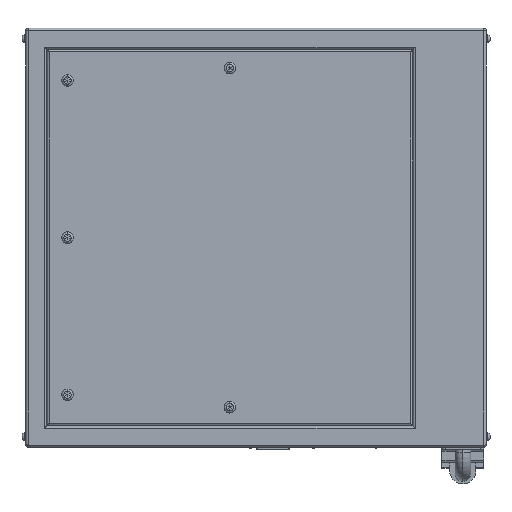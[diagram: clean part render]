
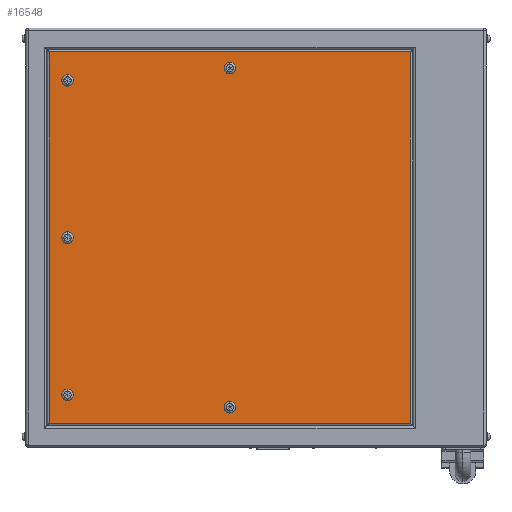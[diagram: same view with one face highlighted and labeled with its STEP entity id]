
A CAD part, left-side view. The second image highlights one B-rep face of the part: STEP entity #16548.
In plain terms, the highlighted planar face has unit normal (-1, 0, 0).
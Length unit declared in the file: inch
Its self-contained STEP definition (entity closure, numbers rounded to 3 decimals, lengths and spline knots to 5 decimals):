
#606 = CARTESIAN_POINT ( 'NONE',  ( -11., 19.74, -17.74 ) ) ;
#639 = ORIENTED_EDGE ( 'NONE', *, *, #5290, .T. ) ;
#780 = DIRECTION ( 'NONE',  ( 0., 0., -1. ) ) ;
#924 = VERTEX_POINT ( 'NONE', #3390 ) ;
#1048 = DIRECTION ( 'NONE',  ( 0., 0., 1. ) ) ;
#1174 = CIRCLE ( 'NONE', #12486, 0.55 ) ;
#1363 = CARTESIAN_POINT ( 'NONE',  ( -11., 22., -17.74 ) ) ;
#1437 = DIRECTION ( 'NONE',  ( 0., 0., -1. ) ) ;
#1662 = DIRECTION ( 'NONE',  ( 1., 0., 0. ) ) ;
#1720 = VERTEX_POINT ( 'NONE', #9754 ) ;
#1898 = AXIS2_PLACEMENT_3D ( 'NONE', #4887, #3155, #5328 ) ;
#1908 = VERTEX_POINT ( 'NONE', #19775 ) ;
#2463 = CARTESIAN_POINT ( 'NONE',  ( -11., 2.5, 16.74 ) ) ;
#2814 = DIRECTION ( 'NONE',  ( 1., 0., 0. ) ) ;
#2876 = EDGE_LOOP ( 'NONE', ( #6526, #11578 ) ) ;
#3005 = FACE_OUTER_BOUND ( 'NONE', #17606, .T. ) ;
#3130 = DIRECTION ( 'NONE',  ( 0., 0., -1. ) ) ;
#3155 = DIRECTION ( 'NONE',  ( 1., 0., 0. ) ) ;
#3390 = CARTESIAN_POINT ( 'NONE',  ( -11., 18., 0.55 ) ) ;
#3678 = DIRECTION ( 'NONE',  ( 1., 0., 0. ) ) ;
#3679 = DIRECTION ( 'NONE',  ( 0., 0., 1. ) ) ;
#3755 = VERTEX_POINT ( 'NONE', #11823 ) ;
#4105 = CARTESIAN_POINT ( 'NONE',  ( -11., 2.5, -16.19 ) ) ;
#4146 = ORIENTED_EDGE ( 'NONE', *, *, #5313, .T. ) ;
#4161 = ORIENTED_EDGE ( 'NONE', *, *, #16758, .T. ) ;
#4475 = AXIS2_PLACEMENT_3D ( 'NONE', #5106, #1662, #20985 ) ;
#4509 = FACE_BOUND ( 'NONE', #20271, .T. ) ;
#4887 = CARTESIAN_POINT ( 'NONE',  ( -11., 18., 15. ) ) ;
#4982 = EDGE_CURVE ( 'NONE', #924, #12403, #16787, .T. ) ;
#5094 = CARTESIAN_POINT ( 'NONE',  ( -11., 2.5, -16.74 ) ) ;
#5106 = CARTESIAN_POINT ( 'NONE',  ( -11., 18., 15. ) ) ;
#5284 = CIRCLE ( 'NONE', #18016, 0.55 ) ;
#5290 = EDGE_CURVE ( 'NONE', #5892, #20486, #7723, .T. ) ;
#5313 = EDGE_CURVE ( 'NONE', #20486, #5892, #21989, .T. ) ;
#5328 = DIRECTION ( 'NONE',  ( 0., 0., -1. ) ) ;
#5764 = AXIS2_PLACEMENT_3D ( 'NONE', #13051, #18206, #16493 ) ;
#5775 = VECTOR ( 'NONE', #8766, 39.37008 ) ;
#5831 = DIRECTION ( 'NONE',  ( 0., 0., 1. ) ) ;
#5892 = VERTEX_POINT ( 'NONE', #7939 ) ;
#6046 = CARTESIAN_POINT ( 'NONE',  ( -11., 18., -0.55 ) ) ;
#6173 = DIRECTION ( 'NONE',  ( 0., 0., -1. ) ) ;
#6337 = VERTEX_POINT ( 'NONE', #22090 ) ;
#6353 = VECTOR ( 'NONE', #1048, 39.37008 ) ;
#6526 = ORIENTED_EDGE ( 'NONE', *, *, #14760, .T. ) ;
#6712 = AXIS2_PLACEMENT_3D ( 'NONE', #16457, #21519, #5831 ) ;
#6919 = AXIS2_PLACEMENT_3D ( 'NONE', #14851, #14625, #6173 ) ;
#7194 = EDGE_CURVE ( 'NONE', #21141, #22208, #20283, .T. ) ;
#7378 = DIRECTION ( 'NONE',  ( 0., 0., -1. ) ) ;
#7409 = VERTEX_POINT ( 'NONE', #2463 ) ;
#7723 = CIRCLE ( 'NONE', #4475, 0.55 ) ;
#7939 = CARTESIAN_POINT ( 'NONE',  ( -11., 18., 15.55 ) ) ;
#8160 = CIRCLE ( 'NONE', #6712, 0.55 ) ;
#8298 = EDGE_CURVE ( 'NONE', #22208, #3755, #15489, .T. ) ;
#8371 = EDGE_LOOP ( 'NONE', ( #4146, #639 ) ) ;
#8766 = DIRECTION ( 'NONE',  ( 0., 1., 0. ) ) ;
#9155 = VERTEX_POINT ( 'NONE', #5094 ) ;
#9162 = CARTESIAN_POINT ( 'NONE',  ( -11., 18., 0. ) ) ;
#9694 = AXIS2_PLACEMENT_3D ( 'NONE', #11384, #2814, #16220 ) ;
#9720 = AXIS2_PLACEMENT_3D ( 'NONE', #20485, #11779, #3130 ) ;
#9754 = CARTESIAN_POINT ( 'NONE',  ( -11., 18., -15.55 ) ) ;
#10124 = CARTESIAN_POINT ( 'NONE',  ( -11., 18., -15. ) ) ;
#10495 = VECTOR ( 'NONE', #15083, 39.37008 ) ;
#10653 = DIRECTION ( 'NONE',  ( 0., 0., -1. ) ) ;
#10972 = AXIS2_PLACEMENT_3D ( 'NONE', #9162, #3678, #10653 ) ;
#11156 = CARTESIAN_POINT ( 'NONE',  ( -11., 2.5, 16.19 ) ) ;
#11267 = ORIENTED_EDGE ( 'NONE', *, *, #20708, .T. ) ;
#11341 = ORIENTED_EDGE ( 'NONE', *, *, #4982, .T. ) ;
#11384 = CARTESIAN_POINT ( 'NONE',  ( -11., 2.5, 16.19 ) ) ;
#11563 = CARTESIAN_POINT ( 'NONE',  ( -11., -14.74, -20. ) ) ;
#11566 = FACE_BOUND ( 'NONE', #8371, .T. ) ;
#11578 = ORIENTED_EDGE ( 'NONE', *, *, #18686, .T. ) ;
#11779 = DIRECTION ( 'NONE',  ( 1., 0., 0. ) ) ;
#11823 = CARTESIAN_POINT ( 'NONE',  ( -11., 19.74, 17.74 ) ) ;
#12403 = VERTEX_POINT ( 'NONE', #6046 ) ;
#12459 = ORIENTED_EDGE ( 'NONE', *, *, #14222, .T. ) ;
#12486 = AXIS2_PLACEMENT_3D ( 'NONE', #4105, #19774, #3679 ) ;
#12868 = EDGE_LOOP ( 'NONE', ( #11267, #16204 ) ) ;
#13051 = CARTESIAN_POINT ( 'NONE',  ( -11., 18., 0. ) ) ;
#13098 = EDGE_CURVE ( 'NONE', #21936, #21141, #22092, .T. ) ;
#13129 = CARTESIAN_POINT ( 'NONE',  ( -11., 18., 14.45 ) ) ;
#13395 = ORIENTED_EDGE ( 'NONE', *, *, #8298, .T. ) ;
#13514 = VERTEX_POINT ( 'NONE', #17960 ) ;
#13528 = EDGE_CURVE ( 'NONE', #12403, #924, #16363, .T. ) ;
#13710 = CIRCLE ( 'NONE', #9694, 0.55 ) ;
#13902 = DIRECTION ( 'NONE',  ( 1., 0., 0. ) ) ;
#14032 = ORIENTED_EDGE ( 'NONE', *, *, #7194, .T. ) ;
#14222 = EDGE_CURVE ( 'NONE', #7409, #1908, #13710, .T. ) ;
#14526 = CIRCLE ( 'NONE', #6919, 0.55 ) ;
#14625 = DIRECTION ( 'NONE',  ( 1., 0., 0. ) ) ;
#14751 = LINE ( 'NONE', #21729, #16314 ) ;
#14760 = EDGE_CURVE ( 'NONE', #9155, #13514, #8160, .T. ) ;
#14823 = CARTESIAN_POINT ( 'NONE',  ( -11., -14.74, 17.74 ) ) ;
#14851 = CARTESIAN_POINT ( 'NONE',  ( -11., 18., -15. ) ) ;
#15083 = DIRECTION ( 'NONE',  ( 0., -1., 0. ) ) ;
#15106 = FACE_BOUND ( 'NONE', #19881, .T. ) ;
#15489 = LINE ( 'NONE', #20866, #5775 ) ;
#16204 = ORIENTED_EDGE ( 'NONE', *, *, #22605, .T. ) ;
#16220 = DIRECTION ( 'NONE',  ( 0., 0., -1. ) ) ;
#16314 = VECTOR ( 'NONE', #780, 39.37008 ) ;
#16363 = CIRCLE ( 'NONE', #5764, 0.55 ) ;
#16457 = CARTESIAN_POINT ( 'NONE',  ( -11., 2.5, -16.19 ) ) ;
#16493 = DIRECTION ( 'NONE',  ( 0., 0., -1. ) ) ;
#16548 = ADVANCED_FACE ( 'NONE', ( #18649, #15106, #22225, #4509, #11566, #3005 ), #16917, .F. ) ;
#16758 = EDGE_CURVE ( 'NONE', #3755, #21936, #14751, .T. ) ;
#16787 = CIRCLE ( 'NONE', #10972, 0.55 ) ;
#16917 = PLANE ( 'NONE',  #9720 ) ;
#17256 = ORIENTED_EDGE ( 'NONE', *, *, #21927, .T. ) ;
#17606 = EDGE_LOOP ( 'NONE', ( #17859, #14032, #13395, #4161 ) ) ;
#17859 = ORIENTED_EDGE ( 'NONE', *, *, #13098, .T. ) ;
#17960 = CARTESIAN_POINT ( 'NONE',  ( -11., 2.5, -15.64 ) ) ;
#18016 = AXIS2_PLACEMENT_3D ( 'NONE', #10124, #13902, #1437 ) ;
#18186 = AXIS2_PLACEMENT_3D ( 'NONE', #11156, #19974, #7378 ) ;
#18206 = DIRECTION ( 'NONE',  ( 1., 0., 0. ) ) ;
#18649 = FACE_BOUND ( 'NONE', #2876, .T. ) ;
#18686 = EDGE_CURVE ( 'NONE', #13514, #9155, #1174, .T. ) ;
#18741 = CARTESIAN_POINT ( 'NONE',  ( -11., -14.74, -17.74 ) ) ;
#19348 = ORIENTED_EDGE ( 'NONE', *, *, #13528, .T. ) ;
#19774 = DIRECTION ( 'NONE',  ( 1., 0., 0. ) ) ;
#19775 = CARTESIAN_POINT ( 'NONE',  ( -11., 2.5, 15.64 ) ) ;
#19881 = EDGE_LOOP ( 'NONE', ( #17256, #12459 ) ) ;
#19974 = DIRECTION ( 'NONE',  ( 1., 0., 0. ) ) ;
#20271 = EDGE_LOOP ( 'NONE', ( #19348, #11341 ) ) ;
#20283 = LINE ( 'NONE', #11563, #6353 ) ;
#20485 = CARTESIAN_POINT ( 'NONE',  ( -11., 22., -20. ) ) ;
#20486 = VERTEX_POINT ( 'NONE', #13129 ) ;
#20708 = EDGE_CURVE ( 'NONE', #1720, #6337, #5284, .T. ) ;
#20866 = CARTESIAN_POINT ( 'NONE',  ( -11., 22., 17.74 ) ) ;
#20985 = DIRECTION ( 'NONE',  ( 0., 0., -1. ) ) ;
#21141 = VERTEX_POINT ( 'NONE', #18741 ) ;
#21519 = DIRECTION ( 'NONE',  ( 1., 0., 0. ) ) ;
#21729 = CARTESIAN_POINT ( 'NONE',  ( -11., 19.74, -20. ) ) ;
#21927 = EDGE_CURVE ( 'NONE', #1908, #7409, #22243, .T. ) ;
#21936 = VERTEX_POINT ( 'NONE', #606 ) ;
#21989 = CIRCLE ( 'NONE', #1898, 0.55 ) ;
#22090 = CARTESIAN_POINT ( 'NONE',  ( -11., 18., -14.45 ) ) ;
#22092 = LINE ( 'NONE', #1363, #10495 ) ;
#22208 = VERTEX_POINT ( 'NONE', #14823 ) ;
#22225 = FACE_BOUND ( 'NONE', #12868, .T. ) ;
#22243 = CIRCLE ( 'NONE', #18186, 0.55 ) ;
#22605 = EDGE_CURVE ( 'NONE', #6337, #1720, #14526, .T. ) ;
